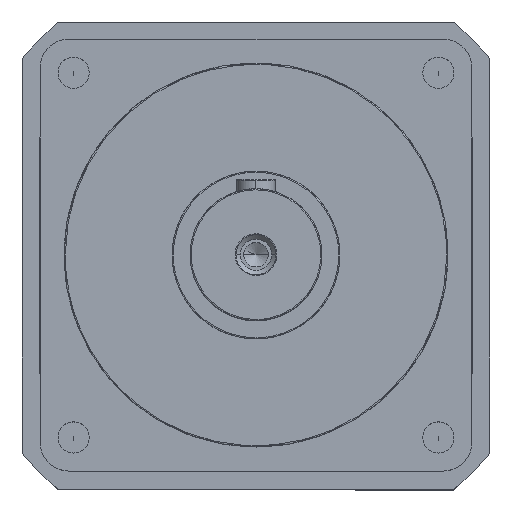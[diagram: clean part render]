
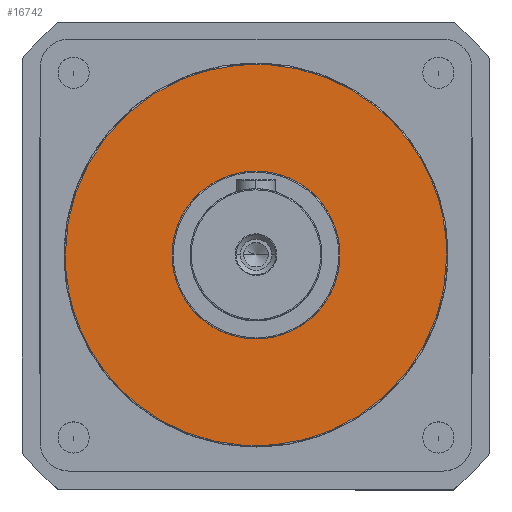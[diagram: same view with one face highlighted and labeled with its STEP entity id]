
A CAD part, top view. The second image highlights one B-rep face of the part: STEP entity #16742.
In plain terms, the highlighted planar face has unit normal (0, 0, 1).
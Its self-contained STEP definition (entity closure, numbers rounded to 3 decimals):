
#179 = DIRECTION ( 'NONE',  ( -1., 0., 0. ) ) ;
#187 = DIRECTION ( 'NONE',  ( 0., 0., 1. ) ) ;
#243 = CARTESIAN_POINT ( 'NONE',  ( 0., 0., 252. ) ) ;
#2612 = EDGE_LOOP ( 'NONE', ( #38510, #26281 ) ) ;
#2700 = AXIS2_PLACEMENT_3D ( 'NONE', #30316, #11366, #33523 ) ;
#3018 = CARTESIAN_POINT ( 'NONE',  ( -79.5, 0., 252. ) ) ;
#3353 = CARTESIAN_POINT ( 'NONE',  ( 79.5, 0., 252. ) ) ;
#3411 = CARTESIAN_POINT ( 'NONE',  ( 79.5, -159., 252. ) ) ;
#3685 = DIRECTION ( 'NONE',  ( 0., 0., -1. ) ) ;
#4511 = CIRCLE ( 'NONE', #2700, 35. ) ;
#7534 = EDGE_CURVE ( 'NONE', #23504, #40946, #32665, .T. ) ;
#9303 = FACE_OUTER_BOUND ( 'NONE', #12243, .T. ) ;
#10979 = AXIS2_PLACEMENT_3D ( 'NONE', #243, #187, #179 ) ;
#11366 = DIRECTION ( 'NONE',  ( 0., 0., 1. ) ) ;
#12243 = EDGE_LOOP ( 'NONE', ( #33096, #12562 ) ) ;
#12562 = ORIENTED_EDGE ( 'NONE', *, *, #31123, .F. ) ;
#12762 = CARTESIAN_POINT ( 'NONE',  ( 79.5, 0., 252. ) ) ;
#13122 = CARTESIAN_POINT ( 'NONE',  ( -79.5, 0., 252. ) ) ;
#15461 = CARTESIAN_POINT ( 'NONE',  ( 35., 0., 252. ) ) ;
#16742 = ADVANCED_FACE ( 'NONE', ( #17794, #9303 ), #35247, .F. ) ;
#17569 = AXIS2_PLACEMENT_3D ( 'NONE', #22858, #3685, #25978 ) ;
#17794 = FACE_BOUND ( 'NONE', #2612, .T. ) ;
#18893 = VERTEX_POINT ( 'NONE', #3353 ) ;
#19052 = CARTESIAN_POINT ( 'NONE',  ( -79.5, 159., 252. ) ) ;
#22858 = CARTESIAN_POINT ( 'NONE',  ( 0., 0., 252. ) ) ;
#23504 = VERTEX_POINT ( 'NONE', #15461 ) ;
#25730 = CARTESIAN_POINT ( 'NONE',  ( 79.5, 0., 252. ) ) ;
#25978 = DIRECTION ( 'NONE',  ( -1., 0., 0. ) ) ;
#26281 = ORIENTED_EDGE ( 'NONE', *, *, #7534, .F. ) ;
#26337 =( BOUNDED_CURVE ( )  B_SPLINE_CURVE ( 3, ( #25730, #3411, #32062, #13122 ),
 .UNSPECIFIED., .F., .F. ) 
 B_SPLINE_CURVE_WITH_KNOTS ( ( 4, 4 ),
 ( 0., 1. ),
 .UNSPECIFIED. ) 
 CURVE ( )  GEOMETRIC_REPRESENTATION_ITEM ( )  RATIONAL_B_SPLINE_CURVE ( ( 1., 0.333, 0.333, 1. ) ) 
 REPRESENTATION_ITEM ( '' )  );
#29968 = VERTEX_POINT ( 'NONE', #35665 ) ;
#30316 = CARTESIAN_POINT ( 'NONE',  ( 0., 0., 252. ) ) ;
#30818 = EDGE_CURVE ( 'NONE', #40946, #23504, #4511, .T. ) ;
#31123 = EDGE_CURVE ( 'NONE', #29968, #18893, #32195, .T. ) ;
#31698 = CARTESIAN_POINT ( 'NONE',  ( 79.5, 159., 252. ) ) ;
#31732 = EDGE_CURVE ( 'NONE', #18893, #29968, #26337, .T. ) ;
#32062 = CARTESIAN_POINT ( 'NONE',  ( -79.5, -159., 252. ) ) ;
#32195 =( BOUNDED_CURVE ( )  B_SPLINE_CURVE ( 3, ( #3018, #19052, #31698, #12762 ),
 .UNSPECIFIED., .F., .F. ) 
 B_SPLINE_CURVE_WITH_KNOTS ( ( 4, 4 ),
 ( 0., 1. ),
 .UNSPECIFIED. ) 
 CURVE ( )  GEOMETRIC_REPRESENTATION_ITEM ( )  RATIONAL_B_SPLINE_CURVE ( ( 1., 0.333, 0.333, 1. ) ) 
 REPRESENTATION_ITEM ( '' )  );
#32665 = CIRCLE ( 'NONE', #10979, 35. ) ;
#33096 = ORIENTED_EDGE ( 'NONE', *, *, #31732, .F. ) ;
#33170 = CARTESIAN_POINT ( 'NONE',  ( -35., 0., 252. ) ) ;
#33523 = DIRECTION ( 'NONE',  ( -1., 0., 0. ) ) ;
#35247 = PLANE ( 'NONE',  #17569 ) ;
#35665 = CARTESIAN_POINT ( 'NONE',  ( -79.5, 0., 252. ) ) ;
#38510 = ORIENTED_EDGE ( 'NONE', *, *, #30818, .F. ) ;
#40946 = VERTEX_POINT ( 'NONE', #33170 ) ;
